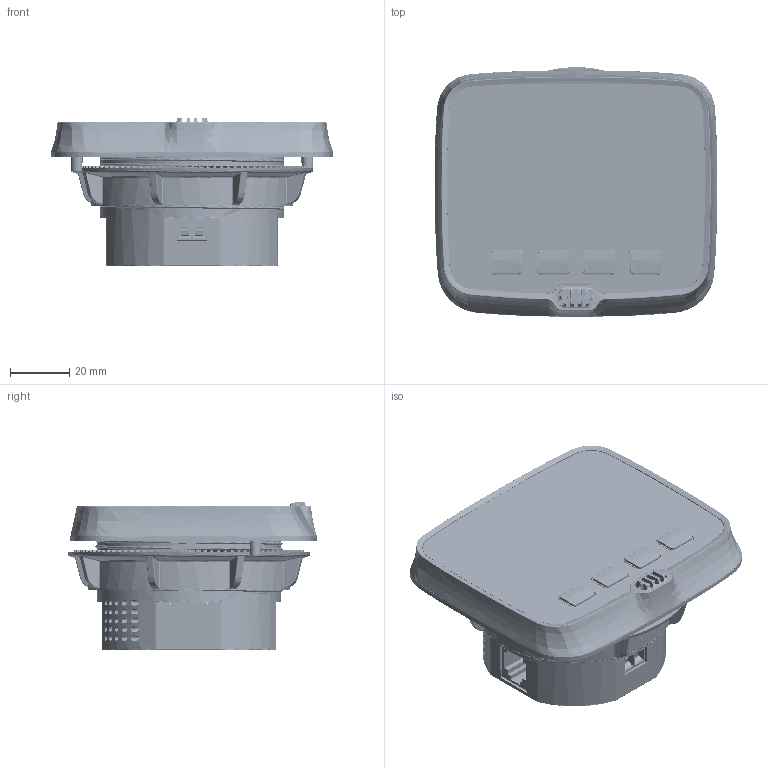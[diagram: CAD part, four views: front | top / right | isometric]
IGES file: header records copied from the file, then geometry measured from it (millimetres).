
Start section: SolidWorks IGES file using analytic representation for surfaces
Global section: file name: D:\201028 弥焊陛措府 夸没荤亲\Accura 2350-Temp Ass'y_20201028.IGS; native system: SolidWorks 2020; preprocessor: SolidWorks 2020; author: HP; date: 201102.150637; units: millimetre
Bounding box: 95.55 x 84.39 x 50.08 mm (x, y, z)
Surface area: 119475.8 mm2 (no closed solid volume)
Topology: 0 solids, 0 shells, 6433 faces, 58880 edges, 58976 vertices
Faces by surface type: bspline 4943, revolution 1490
